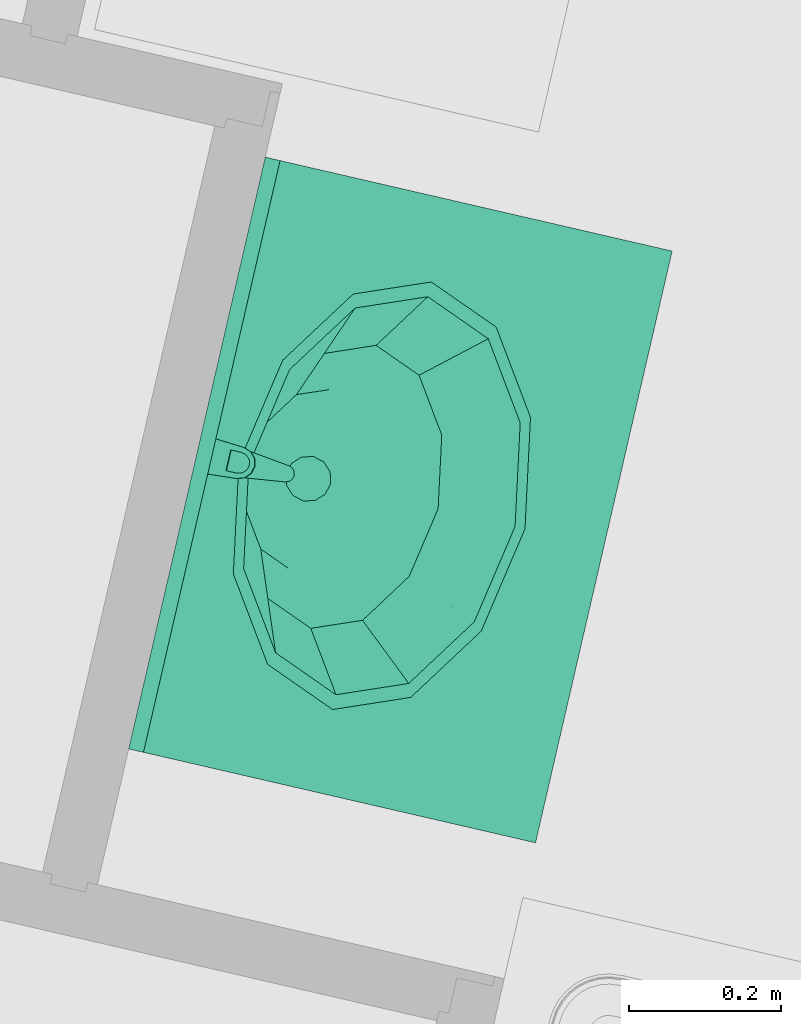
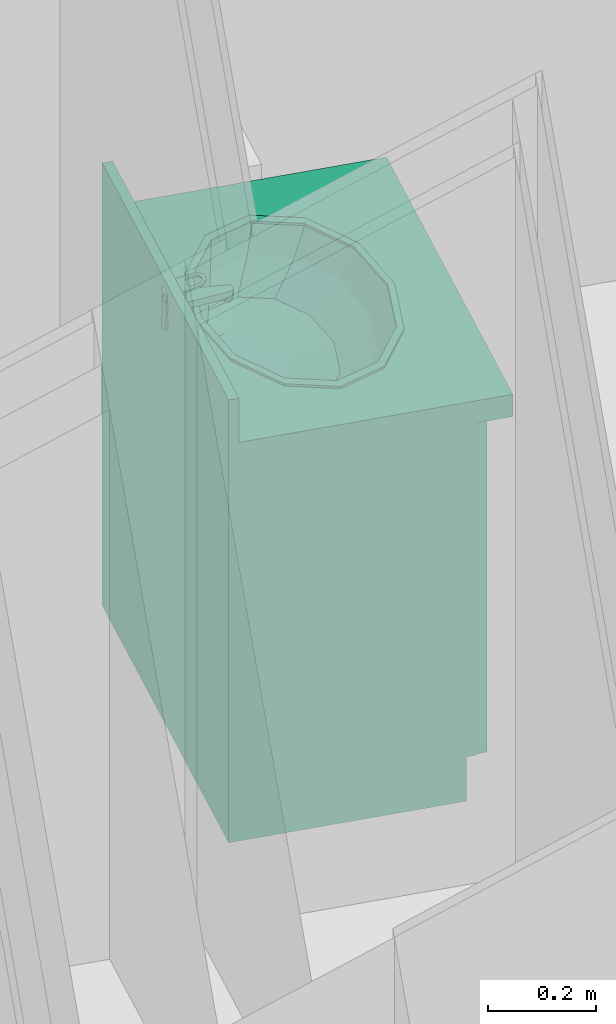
# One storey, part 49 of 62: 1 flow terminal.
"""IFC2X3 building model written with IfcOpenShell, lengths in metres."""

import ifcopenshell
import ifcopenshell.guid

model = None  # the IFC model being written
_history = None  # IfcOwnerHistory: only IFC2X3 demands one
_inside = {}  # id of a spatial element -> (the spatial element, [elements in it])
_under = {}  # id of a project, library or spatial element -> (it, [spatial elements below it])
_declared = {}  # id of a project -> (the project, [libraries it declares])
_typed = {}  # id of a type object -> (the type object, [elements of that type])
_made_of = {}  # id of a material, layer set ... -> (it, [elements and type objects made of it])


def new_model(schema):
    """Start an empty IFC model of exactly this schema.

    Asked for "IFC4X3", IfcOpenShell would pick the latest addendum, in which some entities
    have other attributes; the version numbers below select the first issue.
    IFC2X3 requires an IfcOwnerHistory on every rooted entity: one is made here for all.
    """
    global model, _history
    if schema == "IFC4X3":
        model = ifcopenshell.file(schema_version=(4, 3, 0, 0))
    else:
        model = ifcopenshell.file(schema=schema)
    _inside.clear()
    _under.clear()
    _declared.clear()
    _typed.clear()
    _made_of.clear()
    _history = None
    if model.schema == "IFC2X3":
        org = make("IfcOrganization", Name="unknown")
        user = make(
            "IfcPersonAndOrganization",
            ThePerson=make("IfcPerson", FamilyName="unknown"),
            TheOrganization=org,
        )
        app = make(
            "IfcApplication",
            ApplicationDeveloper=org,
            Version="unknown",
            ApplicationFullName="unknown",
            ApplicationIdentifier="unknown",
        )
        _history = make(
            "IfcOwnerHistory",
            OwningUser=user,
            OwningApplication=app,
            ChangeAction="ADDED",
            CreationDate=0,
        )
    return model


def make(cls, **values):
    """One entity of the class cls with the attributes given. An attribute that is None is left unset."""
    return model.create_entity(
        cls, **{name: value for name, value in values.items() if value is not None}
    )


def entity(cls, *values):
    """Any entity or typed value of the class cls, its attributes in the order of the schema. None: left unset."""
    e = model.create_entity(cls)
    for i, value in enumerate(values):
        if value is not None:
            e[i] = value
    return e


def rooted(cls, **values):
    """An entity with a GlobalId (a new one), such as an element, a storey or a relation."""
    return make(cls, GlobalId=ifcopenshell.guid.new(), OwnerHistory=_history, **values)


def si_unit(unit_type, name, prefix=None):
    """IfcSIUnit, for example si_unit("LENGTHUNIT", "METRE", prefix="MILLI")."""
    return make("IfcSIUnit", UnitType=unit_type, Prefix=prefix, Name=name)


def converted_unit(unit_type, name, factor, base, dimensions=None, offset=None):
    """IfcConversionBasedUnit, such as the inch: factor (a typed value) times the base unit."""
    return make(
        "IfcConversionBasedUnit"
        if offset is None
        else "IfcConversionBasedUnitWithOffset",
        ConversionOffset=offset,
        Dimensions=None
        if dimensions is None
        else entity("IfcDimensionalExponents", *dimensions),
        UnitType=unit_type,
        Name=name,
        ConversionFactor=make(
            "IfcMeasureWithUnit", ValueComponent=factor, UnitComponent=base
        ),
    )


def derived_unit(unit_type, elements):
    """IfcDerivedUnit: a product of units, each with its exponent."""
    return make(
        "IfcDerivedUnit",
        Elements=[
            make("IfcDerivedUnitElement", Unit=unit, Exponent=power)
            for unit, power in elements
        ],
        UnitType=unit_type,
    )


def money_unit(currency):
    """IfcMonetaryUnit."""
    return make("IfcMonetaryUnit", Currency=currency)


def assignment(units):
    """IfcUnitAssignment: the units of a project."""
    return None if units is None else make("IfcUnitAssignment", Units=units)


def point(xyz):
    """IfcCartesianPoint."""
    return None if xyz is None else make("IfcCartesianPoint", Coordinates=xyz)


def direction(xyz):
    """IfcDirection."""
    return None if xyz is None else make("IfcDirection", DirectionRatios=xyz)


def frame(location, z_axis=None, x_axis=None):
    """IfcAxis2Placement3D, a coordinate frame: its origin and axes. An axis left out is left unset."""
    return make(
        "IfcAxis2Placement3D",
        Location=point(location),
        Axis=direction(z_axis),
        RefDirection=direction(x_axis),
    )


def origin_with_axes():
    """The frame at (0, 0, 0) with the z axis (0, 0, 1) and the x axis (1, 0, 0) written out."""
    return frame((0.0, 0.0, 0.0), z_axis=(0.0, 0.0, 1.0), x_axis=(1.0, 0.0, 0.0))


def place(relative_to, where):
    """IfcLocalPlacement: puts the frame where relative to a parent placement (None: the world)."""
    return make(
        "IfcLocalPlacement", PlacementRelTo=relative_to, RelativePlacement=where
    )


def context(
    kind, dimensions, precision=None, world=None, true_north=None, identifier=None
):
    """IfcGeometricRepresentationContext, for example the 3D "Model" context."""
    return make(
        "IfcGeometricRepresentationContext",
        ContextIdentifier=identifier,
        ContextType=kind,
        CoordinateSpaceDimension=dimensions,
        Precision=precision,
        WorldCoordinateSystem=world,
        TrueNorth=true_north,
    )


def subcontext(parent, identifier, kind, view, scale=None):
    """IfcGeometricRepresentationSubContext, for example "Body" below "Model"."""
    return make(
        "IfcGeometricRepresentationSubContext",
        ContextIdentifier=identifier,
        ContextType=kind,
        ParentContext=parent,
        TargetScale=scale,
        TargetView=view,
    )


def project(units=None, contexts=None):
    """IfcProject with its units and contexts."""
    return rooted(
        "IfcProject",
        Name="project",
        RepresentationContexts=contexts,
        UnitsInContext=assignment(units),
    )


def spatial(cls, under=None, at=None, **own):
    """A site, building, storey or space (cls), placed at a placement, below another one or the project."""
    s = rooted(cls, ObjectPlacement=at, **own)
    if under is not None:
        _under.setdefault(under.id(), (under, []))[1].append(s)
    return s


def faces_of(points, faces, orient=None, outer=None):
    """IfcFace entities. A face is a list of loops; a loop is a list of indices into points, from 0.

    orient and outer hold one flag for each loop. By default every Orientation is true, the
    first loop of a face is its IfcFaceOuterBound and the others are IfcFaceBound.
    """
    made = []
    for i, loops in enumerate(faces):
        bounds = []
        for j, loop in enumerate(loops):
            is_outer = j == 0 if outer is None else outer[i][j]
            bounds.append(
                make(
                    "IfcFaceOuterBound" if is_outer else "IfcFaceBound",
                    Bound=make("IfcPolyLoop", Polygon=[points[k] for k in loop]),
                    Orientation=True if orient is None else orient[i][j],
                )
            )
        made.append(make("IfcFace", Bounds=bounds))
    return made


def open_shell(faces, orient=None, outer=None):
    """The faces of one IfcOpenShell. surface_model builds it on its shared points."""
    return ("IfcOpenShell", faces, orient, outer)


def faceted_brep(points, faces, orient=None, outer=None, voids=None):
    """IfcFacetedBrep: a solid bounded by flat faces; with voids (closed shells), ...WithVoids."""
    shared = [point(p) for p in points]
    hull = make("IfcClosedShell", CfsFaces=faces_of(shared, faces, orient, outer))
    if voids is None:
        return make("IfcFacetedBrep", Outer=hull)
    return make(
        "IfcFacetedBrepWithVoids",
        Outer=hull,
        Voids=[
            make(cls, CfsFaces=faces_of(shared, fs, o, b)) for cls, fs, o, b in voids
        ],
    )


def surface_model(cls, points, shells):
    """IfcFaceBasedSurfaceModel or IfcShellBasedSurfaceModel (cls): surfaces that need not close."""
    shared = [point(p) for p in points]
    made = [make(c, CfsFaces=faces_of(shared, fs, o, b)) for c, fs, o, b in shells]
    if cls == "IfcFaceBasedSurfaceModel":
        return make(cls, FbsmFaces=made)
    return make(cls, SbsmBoundary=made)


def shape(context_of_items, identifier, shape_type, items):
    """IfcShapeRepresentation: the items that make up one representation, for example the "Body"."""
    return make(
        "IfcShapeRepresentation",
        ContextOfItems=context_of_items,
        RepresentationIdentifier=identifier,
        RepresentationType=shape_type,
        Items=items,
    )


def source(mapping_origin, context_of_items, identifier, shape_type, items):
    """IfcRepresentationMap: a shape defined once, which mapped items show again and again."""
    return make(
        "IfcRepresentationMap",
        MappingOrigin=mapping_origin,
        MappedRepresentation=shape(context_of_items, identifier, shape_type, items),
    )


def transform(
    local_origin,
    x_axis=None,
    y_axis=None,
    z_axis=None,
    scale=None,
    scale2=None,
    scale3=None,
    uniform=True,
):
    """IfcCartesianTransformationOperator3D, or its non-uniform kind. x_axis, y_axis, z_axis: its Axis1, 2, 3."""
    if uniform:
        return make(
            "IfcCartesianTransformationOperator3D",
            Axis1=direction(x_axis),
            Axis2=direction(y_axis),
            LocalOrigin=point(local_origin),
            Scale=scale,
            Axis3=direction(z_axis),
        )
    return make(
        "IfcCartesianTransformationOperator3DnonUniform",
        Axis1=direction(x_axis),
        Axis2=direction(y_axis),
        LocalOrigin=point(local_origin),
        Scale=scale,
        Axis3=direction(z_axis),
        Scale2=scale2,
        Scale3=scale3,
    )


def mapped(mapping_source, mapping_target):
    """IfcMappedItem: shows the shape of a source again, moved by a transform."""
    return make(
        "IfcMappedItem", MappingSource=mapping_source, MappingTarget=mapping_target
    )


def made_of(thing, what):
    """Note that an element or type object is made of a material, layer set ...; save() writes the relation."""
    if what is not None:
        _made_of.setdefault(what.id(), (what, []))[1].append(thing)
    return thing


def type_object(cls, material=None, **own):
    """A type object (cls), such as IfcWallType, which elements share."""
    return made_of(rooted(cls, **own), material)


def element(
    cls,
    number,
    at=None,
    inside=None,
    cuts=None,
    type_object=None,
    material=None,
    context=None,
    identifier="Body",
    shape_type=None,
    held_by="IfcProductDefinitionShape",
    body=None,
    shapes=None,
    **own,
):
    """One element of the class cls, such as IfcWall. Its Tag is "e" and its number.

    at: its placement. inside: the storey or other place that contains it. cuts: it is an
    opening in that element (IfcRelVoidsElement). A single representation is given by context,
    identifier, shape_type and body (its items); several are given by shapes. held_by: the class
    of the entity that holds the representations. save() writes the other relations.
    """
    e = rooted(cls, Tag="e%d" % number, ObjectPlacement=at, **own)
    if body is not None:
        shapes = [shape(context, identifier, shape_type, body)]
    if shapes is not None:
        e.Representation = make(held_by, Representations=shapes)
    if inside is not None:
        _inside.setdefault(inside.id(), (inside, []))[1].append(e)
    if cuts is not None:
        rooted(
            "IfcRelVoidsElement", RelatingBuildingElement=cuts, RelatedOpeningElement=e
        )
    if type_object is not None:
        _typed.setdefault(type_object.id(), (type_object, []))[1].append(e)
    return made_of(e, material)


def aggregate(whole, parts):
    """IfcRelAggregates: a whole, such as a stair, and the parts it consists of."""
    return rooted("IfcRelAggregates", RelatingObject=whole, RelatedObjects=parts)


def save(model, path):
    """Write the relations noted so far, then the file.

    IfcRelAggregates (storeys below a building ...), IfcRelContainedInSpatialStructure (elements
    in a storey), IfcRelDefinesByType, IfcRelAssociatesMaterial and IfcRelDeclares: one each for
    every whole, place, type object, material and project.
    """
    for whole, parts in _under.values():
        aggregate(whole, parts)
    for where, things in _inside.values():
        rooted(
            "IfcRelContainedInSpatialStructure",
            RelatedElements=things,
            RelatingStructure=where,
        )
    for kind, things in _typed.values():
        rooted("IfcRelDefinesByType", RelatedObjects=things, RelatingType=kind)
    for what, things in _made_of.values():
        rooted("IfcRelAssociatesMaterial", RelatedObjects=things, RelatingMaterial=what)
    for by, libraries in _declared.values():
        rooted("IfcRelDeclares", RelatingContext=by, RelatedDefinitions=libraries)
    model.write(path)


model = new_model("IFC2X3")

# Units and contexts
model_context = context("Model", 3, precision=1e-05, world=origin_with_axes(), true_north=direction((0.0, 1.0)))
body_context = subcontext(model_context, "Body", "Model", "MODEL_VIEW")
ifc_project = project(units=[si_unit("LENGTHUNIT", "METRE"), si_unit("AREAUNIT", "SQUARE_METRE"), si_unit("VOLUMEUNIT", "CUBIC_METRE"), converted_unit("PLANEANGLEUNIT", "DEGREE", entity("IfcPlaneAngleMeasure", 0.0174532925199), si_unit("PLANEANGLEUNIT", "RADIAN"), dimensions=[0, 0, 0, 0, 0, 0, 0]), si_unit("SOLIDANGLEUNIT", "STERADIAN"), money_unit("EUR"), converted_unit("TIMEUNIT", "Year", entity("IfcTimeMeasure", 31556926.0), si_unit("TIMEUNIT", "SECOND"), dimensions=[0, 0, 1, 0, 0, 0, 0]), si_unit("MASSUNIT", "GRAM", prefix="KILO"), si_unit("THERMODYNAMICTEMPERATUREUNIT", "DEGREE_CELSIUS"), si_unit("LUMINOUSINTENSITYUNIT", "LUMEN"), si_unit("ENERGYUNIT", "JOULE", prefix="MEGA"), derived_unit("THERMALCONDUCTANCEUNIT", [(si_unit("POWERUNIT", "WATT"), 1), (si_unit("LENGTHUNIT", "METRE"), -1), (si_unit("THERMODYNAMICTEMPERATUREUNIT", "KELVIN"), -1)]), derived_unit("SPECIFICHEATCAPACITYUNIT", [(si_unit("ENERGYUNIT", "JOULE"), 1), (si_unit("MASSUNIT", "GRAM", prefix="KILO"), -1), (si_unit("THERMODYNAMICTEMPERATUREUNIT", "KELVIN"), -1)]), derived_unit("MASSDENSITYUNIT", [(si_unit("MASSUNIT", "GRAM", prefix="KILO"), 1), (si_unit("VOLUMEUNIT", "CUBIC_METRE"), -1)])], contexts=[model_context])

# Site, building, storey
site_placement = place(None, origin_with_axes())
site = spatial("IfcSite", under=ifc_project, at=site_placement, Name="Site", CompositionType="ELEMENT")
building_placement = place(site_placement, origin_with_axes())
building = spatial("IfcBuilding", under=site, at=building_placement, Name="Bâtiment", CompositionType="ELEMENT")
storey_placement = place(building_placement, frame((0.0, 0.0, 8.16), z_axis=(0.0, 0.0, 1.0), x_axis=(1.0, 0.0, 0.0)))
storey = spatial("IfcBuildingStorey", under=building, at=storey_placement, Name="R+3", CompositionType="ELEMENT", Elevation=8.16)

# Flow terminal
sanitary_terminal_type = type_object("IfcSanitaryTerminalType", Name="Lavabo sur meuble 23", PredefinedType="NOTDEFINED")
shared_shape = source(origin_with_axes(), body_context, "Body", "SurfaceModel", [
    faceted_brep([(0.0, 0.09, 0.0), (0.8, 0.09, 0.0), (0.8, 0.09, 0.1), (0.0, 0.09, 0.1), (0.0, 0.55, 0.0), (0.8, 0.55, 0.0), (0.8, 0.55, 0.1), (0.0, 0.55, 0.1)], [[[0, 1, 2, 3]], [[0, 4, 5, 1]], [[1, 5, 6, 2]], [[3, 2, 6, 7]], [[4, 0, 3, 7]], [[5, 4, 7, 6]]]),
    faceted_brep([(0.0, 0.07, 0.1), (0.02, 0.07, 0.1), (0.02, 0.07, 0.12), (0.0, 0.07, 0.12), (0.0, 0.55, 0.1), (0.02, 0.55, 0.1), (0.78, 0.55, 0.1), (0.8, 0.55, 0.1), (0.8, 0.07, 0.1), (0.78, 0.07, 0.1), (0.78, 0.07, 0.12), (0.8, 0.07, 0.12), (0.8, 0.55, 0.12), (0.78, 0.55, 0.12), (0.02, 0.55, 0.12), (0.0, 0.55, 0.12)], [[[0, 1, 2, 3]], [[0, 4, 5, 6, 7, 8, 9, 1]], [[1, 9, 10, 2]], [[3, 2, 10, 11, 12, 13, 14, 15]], [[4, 0, 3, 15]], [[5, 4, 15, 14]], [[6, 5, 14, 13]], [[7, 6, 13, 12]], [[8, 7, 12, 11]], [[9, 8, 11, 10]]]),
    faceted_brep([(0.0, 0.07, 0.12), (0.02, 0.07, 0.12), (0.02, 0.07, 0.85), (0.0, 0.07, 0.85), (0.0, 0.55, 0.12), (0.8, 0.55, 0.12), (0.8, 0.07, 0.12), (0.78, 0.07, 0.12), (0.78, 0.53, 0.12), (0.02, 0.53, 0.12), (0.02, 0.53, 0.85), (0.78, 0.53, 0.85), (0.78, 0.07, 0.85), (0.8, 0.07, 0.85), (0.8, 0.55, 0.85), (0.0, 0.55, 0.85)], [[[0, 1, 2, 3]], [[0, 4, 5, 6, 7, 8, 9, 1]], [[1, 9, 10, 2]], [[3, 2, 10, 11, 12, 13, 14, 15]], [[4, 0, 3, 15]], [[5, 4, 15, 14]], [[6, 5, 14, 13]], [[7, 6, 13, 12]], [[8, 7, 12, 11]], [[9, 8, 11, 10]]]),
    faceted_brep([(0.78, 0.07, 0.323333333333), (0.78, 0.53, 0.323333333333), (0.78, 0.53, 0.343333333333), (0.78, 0.07, 0.343333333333), (0.02, 0.07, 0.323333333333), (0.02, 0.53, 0.323333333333), (0.02, 0.53, 0.343333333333), (0.02, 0.07, 0.343333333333)], [[[0, 1, 2, 3]], [[0, 4, 5, 1]], [[1, 5, 6, 2]], [[3, 2, 6, 7]], [[4, 0, 3, 7]], [[5, 4, 7, 6]]]),
    faceted_brep([(0.78, 0.07, 0.566666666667), (0.78, 0.53, 0.566666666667), (0.78, 0.53, 0.586666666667), (0.78, 0.07, 0.586666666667), (0.02, 0.07, 0.566666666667), (0.02, 0.53, 0.566666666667), (0.02, 0.53, 0.586666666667), (0.02, 0.07, 0.586666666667)], [[[0, 1, 2, 3]], [[0, 4, 5, 1]], [[1, 5, 6, 2]], [[3, 2, 6, 7]], [[4, 0, 3, 7]], [[5, 4, 7, 6]]]),
    faceted_brep([(0.0, 0.55, 0.85), (0.8, 0.55, 0.85), (0.8, 0.0, 0.85), (0.0, 0.0, 0.85), (0.535, 0.144115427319, 0.85), (0.633826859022, 0.21, 0.85), (0.67, 0.3, 0.85), (0.633826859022, 0.39, 0.85), (0.535, 0.455884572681, 0.85), (0.4, 0.48, 0.85), (0.265, 0.455884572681, 0.85), (0.166173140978, 0.39, 0.85), (0.13, 0.3, 0.85), (0.166173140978, 0.21, 0.85), (0.265, 0.144115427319, 0.85), (0.4, 0.12, 0.85), (0.0, 0.55, 0.9), (0.8, 0.55, 0.9), (0.8, 0.0, 0.9), (0.0, 0.0, 0.9), (0.535, 0.144115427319, 0.9), (0.633826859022, 0.21, 0.9), (0.67, 0.3, 0.9), (0.633826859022, 0.39, 0.9), (0.535, 0.455884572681, 0.9), (0.4, 0.48, 0.9), (0.265, 0.455884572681, 0.9), (0.166173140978, 0.39, 0.9), (0.13, 0.3, 0.9), (0.166173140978, 0.21, 0.9), (0.265, 0.144115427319, 0.9), (0.4, 0.12, 0.9)], [[[0, 1, 2, 3], [4, 5, 6, 7, 8, 9, 10, 11, 12, 13, 14, 15]], [[0, 16, 17, 1]], [[1, 17, 18, 2]], [[2, 18, 19, 3]], [[3, 19, 16, 0]], [[20, 21, 5, 4]], [[21, 22, 6, 5]], [[22, 23, 7, 6]], [[23, 24, 8, 7]], [[24, 25, 9, 8]], [[25, 26, 10, 9]], [[26, 27, 11, 10]], [[27, 28, 12, 11]], [[28, 29, 13, 12]], [[29, 30, 14, 13]], [[30, 31, 15, 14]], [[31, 20, 4, 15]], [[18, 17, 16, 19], [24, 23, 22, 21, 20, 31, 30, 29, 28, 27, 26, 25]]]),
    faceted_brep([(0.0, 0.53, 0.9), (0.8, 0.53, 0.9), (0.8, 0.53, 1.0), (0.0, 0.53, 1.0), (0.0, 0.55, 0.9), (0.8, 0.55, 0.9), (0.8, 0.55, 1.0), (0.0, 0.55, 1.0)], [[[0, 1, 2, 3]], [[0, 4, 5, 1]], [[1, 5, 6, 2]], [[3, 2, 6, 7]], [[4, 0, 3, 7]], [[5, 4, 7, 6]]]),
    faceted_brep([(0.689, 0.3, 0.905), (0.689, 0.3, 0.9), (0.650281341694, 0.396691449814, 0.9), (0.650281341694, 0.396691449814, 0.905), (0.650281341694, 0.203308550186, 0.905), (0.650281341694, 0.203308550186, 0.9), (0.5445, 0.132525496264, 0.9), (0.4, 0.106617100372, 0.9), (0.2555, 0.132525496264, 0.9), (0.149718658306, 0.203308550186, 0.9), (0.111, 0.3, 0.9), (0.149718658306, 0.396691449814, 0.9), (0.2555, 0.467474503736, 0.9), (0.4, 0.493382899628, 0.9), (0.5445, 0.467474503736, 0.9), (0.669, 0.3, 0.9), (0.632960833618, 0.39, 0.9), (0.5345, 0.455884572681, 0.9), (0.4, 0.48, 0.9), (0.2655, 0.455884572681, 0.9), (0.167039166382, 0.39, 0.9), (0.131, 0.3, 0.9), (0.167039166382, 0.21, 0.9), (0.2655, 0.144115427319, 0.9), (0.4, 0.12, 0.9), (0.5345, 0.144115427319, 0.9), (0.632960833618, 0.21, 0.9), (0.5445, 0.467474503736, 0.905), (0.4, 0.493382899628, 0.905), (0.2555, 0.467474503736, 0.905), (0.149718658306, 0.396691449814, 0.905), (0.111, 0.3, 0.905), (0.149718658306, 0.203308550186, 0.905), (0.2555, 0.132525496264, 0.905), (0.4, 0.106617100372, 0.905), (0.5445, 0.132525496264, 0.905), (0.669, 0.3, 0.905), (0.632960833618, 0.21, 0.905), (0.5345, 0.144115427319, 0.905), (0.4, 0.12, 0.905), (0.2655, 0.144115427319, 0.905), (0.167039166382, 0.21, 0.905), (0.131, 0.3, 0.905), (0.167039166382, 0.39, 0.905), (0.2655, 0.455884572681, 0.905), (0.4, 0.48, 0.905), (0.5345, 0.455884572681, 0.905), (0.632960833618, 0.39, 0.905)], [[[0, 1, 2, 3]], [[4, 5, 1, 0]], [[1, 5, 6, 7, 8, 9, 10, 11, 12, 13, 14, 2], [15, 16, 17, 18, 19, 20, 21, 22, 23, 24, 25, 26]], [[3, 2, 14, 27]], [[0, 3, 27, 28, 29, 30, 31, 32, 33, 34, 35, 4], [36, 37, 38, 39, 40, 41, 42, 43, 44, 45, 46, 47]], [[35, 6, 5, 4]], [[34, 7, 6, 35]], [[33, 8, 7, 34]], [[32, 9, 8, 33]], [[31, 10, 9, 32]], [[30, 11, 10, 31]], [[29, 12, 11, 30]], [[28, 13, 12, 29]], [[27, 14, 13, 28]], [[47, 16, 15, 36]], [[46, 17, 16, 47]], [[45, 18, 17, 46]], [[44, 19, 18, 45]], [[43, 20, 19, 44]], [[42, 21, 20, 43]], [[41, 22, 21, 42]], [[40, 23, 22, 41]], [[39, 24, 23, 40]], [[38, 25, 24, 39]], [[37, 26, 25, 38]], [[36, 15, 26, 37]]]),
    surface_model("IfcShellBasedSurfaceModel", [(0.4, 0.48, 0.9), (0.4, 0.48, 0.848), (0.52105, 0.458296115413, 0.848), (0.5345, 0.455884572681, 0.9), (0.2655, 0.455884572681, 0.9), (0.27895, 0.458296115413, 0.848), (0.609664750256, 0.399, 0.848), (0.632960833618, 0.39, 0.9), (0.167039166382, 0.39, 0.9), (0.190335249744, 0.399, 0.848), (0.6421, 0.318, 0.848), (0.669, 0.3, 0.9), (0.131, 0.3, 0.9), (0.1579, 0.318, 0.848), (0.609664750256, 0.237, 0.848), (0.632960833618, 0.21, 0.9), (0.167039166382, 0.21, 0.9), (0.190335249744, 0.237, 0.848), (0.52105, 0.177703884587, 0.848), (0.5345, 0.144115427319, 0.9), (0.2655, 0.144115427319, 0.9), (0.27895, 0.177703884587, 0.848), (0.4, 0.156, 0.848), (0.4, 0.12, 0.9)], [open_shell([[[0, 1, 2, 3]], [[4, 5, 1, 0]], [[3, 2, 6, 7]], [[8, 9, 5, 4]], [[7, 6, 10, 11]], [[12, 13, 9, 8]], [[11, 10, 14, 15]], [[16, 17, 13, 12]], [[15, 14, 18, 19]], [[20, 21, 17, 16]], [[19, 18, 22, 23]], [[23, 22, 21, 20]]])]),
    surface_model("IfcShellBasedSurfaceModel", [(0.4, 0.48, 0.848), (0.4, 0.48, 0.796), (0.4956295, 0.462853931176, 0.796), (0.52105, 0.458296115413, 0.848), (0.27895, 0.458296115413, 0.848), (0.3043705, 0.462853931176, 0.796), (0.565635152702, 0.41601, 0.796), (0.609664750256, 0.399, 0.848), (0.190335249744, 0.399, 0.848), (0.234364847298, 0.41601, 0.796), (0.591259, 0.35202, 0.796), (0.6421, 0.318, 0.848), (0.1579, 0.318, 0.848), (0.208741, 0.35202, 0.796), (0.565635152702, 0.28803, 0.796), (0.609664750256, 0.237, 0.848), (0.190335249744, 0.237, 0.848), (0.234364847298, 0.28803, 0.796), (0.4956295, 0.241186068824, 0.796), (0.52105, 0.177703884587, 0.848), (0.27895, 0.177703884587, 0.848), (0.3043705, 0.241186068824, 0.796), (0.4, 0.22404, 0.796), (0.4, 0.156, 0.848)], [open_shell([[[0, 1, 2, 3]], [[4, 5, 1, 0]], [[3, 2, 6, 7]], [[8, 9, 5, 4]], [[7, 6, 10, 11]], [[12, 13, 9, 8]], [[11, 10, 14, 15]], [[16, 17, 13, 12]], [[15, 14, 18, 19]], [[20, 21, 17, 16]], [[19, 18, 22, 23]], [[23, 22, 21, 20]]])]),
    surface_model("IfcShellBasedSurfaceModel", [(0.4, 0.48, 0.796), (0.4, 0.48, 0.77), (0.460246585, 0.469197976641, 0.77), (0.4956295, 0.462853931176, 0.796), (0.3043705, 0.462853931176, 0.796), (0.339753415, 0.469197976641, 0.77), (0.504350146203, 0.4396863, 0.77), (0.565635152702, 0.41601, 0.796), (0.234364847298, 0.41601, 0.796), (0.295649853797, 0.4396863, 0.77), (0.52049317, 0.3993726, 0.77), (0.591259, 0.35202, 0.796), (0.208741, 0.35202, 0.796), (0.27950683, 0.3993726, 0.77), (0.504350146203, 0.3590589, 0.77), (0.565635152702, 0.28803, 0.796), (0.234364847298, 0.28803, 0.796), (0.295649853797, 0.3590589, 0.77), (0.460246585, 0.329547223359, 0.77), (0.4956295, 0.241186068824, 0.796), (0.3043705, 0.241186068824, 0.796), (0.339753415, 0.329547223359, 0.77), (0.4, 0.3187452, 0.77), (0.4, 0.22404, 0.796)], [open_shell([[[0, 1, 2, 3]], [[4, 5, 1, 0]], [[3, 2, 6, 7]], [[8, 9, 5, 4]], [[7, 6, 10, 11]], [[12, 13, 9, 8]], [[11, 10, 14, 15]], [[16, 17, 13, 12]], [[15, 14, 18, 19]], [[20, 21, 17, 16]], [[19, 18, 22, 23]], [[23, 22, 21, 20]]])]),
    surface_model("IfcShellBasedSurfaceModel", [(0.4, 0.48, 0.77), (0.415, 0.425353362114, 0.763), (0.460246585, 0.469197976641, 0.77), (0.4, 0.4293726, 0.763), (0.425980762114, 0.4143726, 0.763), (0.339753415, 0.469197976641, 0.77), (0.504350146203, 0.4396863, 0.77), (0.385, 0.425353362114, 0.763), (0.43, 0.3993726, 0.763), (0.295649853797, 0.4396863, 0.77), (0.52049317, 0.3993726, 0.77), (0.374019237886, 0.4143726, 0.763), (0.425980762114, 0.3843726, 0.763), (0.27950683, 0.3993726, 0.77), (0.504350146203, 0.3590589, 0.77), (0.37, 0.3993726, 0.763), (0.415, 0.373391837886, 0.763), (0.295649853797, 0.3590589, 0.77), (0.460246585, 0.329547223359, 0.77), (0.374019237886, 0.3843726, 0.763), (0.4, 0.3693726, 0.763), (0.339753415, 0.329547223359, 0.77), (0.4, 0.3187452, 0.77), (0.385, 0.373391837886, 0.763)], [open_shell([[[0, 1, 2]], [[0, 3, 1]], [[2, 1, 4]], [[5, 3, 0]], [[2, 4, 6]], [[5, 7, 3]], [[6, 4, 8]], [[9, 7, 5]], [[6, 8, 10]], [[9, 11, 7]], [[10, 8, 12]], [[13, 11, 9]], [[10, 12, 14]], [[13, 15, 11]], [[14, 12, 16]], [[17, 15, 13]], [[14, 16, 18]], [[17, 19, 15]], [[18, 16, 20]], [[21, 19, 17]], [[18, 20, 22]], [[21, 23, 19]], [[22, 20, 23]], [[22, 23, 21]]])]),
    surface_model("IfcShellBasedSurfaceModel", [(0.43, 0.3993726, 0.763), (0.43, 0.3993726, 0.758), (0.425980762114, 0.4143726, 0.758), (0.425980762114, 0.4143726, 0.763), (0.425980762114, 0.3843726, 0.763), (0.425980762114, 0.3843726, 0.758), (0.415, 0.373391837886, 0.758), (0.4, 0.3693726, 0.758), (0.385, 0.373391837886, 0.758), (0.374019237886, 0.3843726, 0.758), (0.37, 0.3993726, 0.758), (0.374019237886, 0.4143726, 0.758), (0.385, 0.425353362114, 0.758), (0.4, 0.4293726, 0.758), (0.415, 0.425353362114, 0.758), (0.415, 0.425353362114, 0.763), (0.415, 0.373391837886, 0.763), (0.4, 0.3693726, 0.763), (0.385, 0.373391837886, 0.763), (0.374019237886, 0.3843726, 0.763), (0.37, 0.3993726, 0.763), (0.374019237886, 0.4143726, 0.763), (0.385, 0.425353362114, 0.763), (0.4, 0.4293726, 0.763)], [open_shell([[[0, 1, 2, 3]], [[4, 5, 1, 0]], [[1, 5, 6, 7, 8, 9, 10, 11, 12, 13, 14, 2]], [[3, 2, 14, 15]], [[16, 6, 5, 4]], [[17, 7, 6, 16]], [[18, 8, 7, 17]], [[19, 9, 8, 18]], [[20, 10, 9, 19]], [[21, 11, 10, 20]], [[22, 12, 11, 21]], [[23, 13, 12, 22]], [[15, 14, 13, 23]]])]),
    faceted_brep([(0.4125, 0.554150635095, 0.9), (0.4, 0.5575, 0.9), (0.4, 0.553701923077, 0.975961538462), (0.410587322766, 0.550837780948, 0.976507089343), (0.421650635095, 0.545, 0.9), (0.425, 0.5325, 0.9), (0.421650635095, 0.52, 0.9), (0.4125, 0.510849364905, 0.9), (0.4, 0.5075, 0.9), (0.3875, 0.510849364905, 0.9), (0.378349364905, 0.52, 0.9), (0.375, 0.5325, 0.9), (0.378349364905, 0.545, 0.9), (0.3875, 0.554150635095, 0.9), (0.389412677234, 0.550837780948, 0.976507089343), (0.381726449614, 0.543050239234, 0.977990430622), (0.379, 0.5325, 0.98), (0.381899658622, 0.522049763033, 0.981990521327), (0.389585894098, 0.514462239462, 0.983435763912), (0.4, 0.511698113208, 0.983962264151), (0.410414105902, 0.514462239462, 0.983435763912), (0.418100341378, 0.522049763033, 0.981990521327), (0.421, 0.5325, 0.98), (0.418273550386, 0.543050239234, 0.977990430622)], [[[0, 1, 2, 3]], [[0, 4, 5, 6, 7, 8, 9, 10, 11, 12, 13, 1]], [[1, 13, 14, 2]], [[3, 2, 14, 15, 16, 17, 18, 19, 20, 21, 22, 23]], [[4, 0, 3, 23]], [[5, 4, 23, 22]], [[6, 5, 22, 21]], [[7, 6, 21, 20]], [[8, 7, 20, 19]], [[9, 8, 19, 18]], [[10, 9, 18, 17]], [[11, 10, 17, 16]], [[12, 11, 16, 15]], [[13, 12, 15, 14]]]),
    faceted_brep([(0.409, 0.4295, 0.935), (0.407794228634, 0.434, 0.935), (0.407794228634, 0.434, 0.945), (0.409, 0.4295, 0.945), (0.407794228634, 0.425, 0.935), (0.4045, 0.421705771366, 0.935), (0.4, 0.4205, 0.935), (0.3955, 0.421705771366, 0.935), (0.392205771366, 0.425, 0.935), (0.391, 0.4295, 0.935), (0.392205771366, 0.434, 0.935), (0.3955, 0.437294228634, 0.935), (0.4, 0.4385, 0.935), (0.4045, 0.437294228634, 0.935), (0.4045, 0.437294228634, 0.945), (0.4, 0.4385, 0.945), (0.3955, 0.437294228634, 0.945), (0.392205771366, 0.434, 0.945), (0.391, 0.4295, 0.945), (0.392205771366, 0.425, 0.945), (0.3955, 0.421705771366, 0.945), (0.4, 0.4205, 0.945), (0.4045, 0.421705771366, 0.945), (0.407794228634, 0.425, 0.945)], [[[0, 1, 2, 3]], [[0, 4, 5, 6, 7, 8, 9, 10, 11, 12, 13, 1]], [[1, 13, 14, 2]], [[3, 2, 14, 15, 16, 17, 18, 19, 20, 21, 22, 23]], [[4, 0, 3, 23]], [[5, 4, 23, 22]], [[6, 5, 22, 21]], [[7, 6, 21, 20]], [[8, 7, 20, 19]], [[9, 8, 19, 18]], [[10, 9, 18, 17]], [[11, 10, 17, 16]], [[12, 11, 16, 15]], [[13, 12, 15, 14]]]),
    faceted_brep([(0.387128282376, 0.552756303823, 0.96), (0.378272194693, 0.54269320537, 0.96), (0.3761946, 0.5294501, 0.96), (0.389088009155, 0.428111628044, 0.96), (0.390971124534, 0.423216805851, 0.96), (0.394906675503, 0.419750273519, 0.96), (0.400000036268, 0.41850003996, 0.96), (0.405093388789, 0.419750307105, 0.96), (0.409028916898, 0.423216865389, 0.96), (0.410912, 0.4281117, 0.96), (0.423805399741, 0.529450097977, 0.96), (0.421727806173, 0.542693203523, 0.96), (0.412871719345, 0.552756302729, 0.96), (0.40000000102, 0.556499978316, 0.96), (0.411, 0.551552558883, 0.96), (0.419052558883, 0.5435, 0.96), (0.422, 0.5325, 0.96), (0.419052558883, 0.5215, 0.96), (0.411, 0.513447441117, 0.96), (0.4, 0.5105, 0.96), (0.389, 0.513447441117, 0.96), (0.380947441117, 0.5215, 0.96), (0.378, 0.5325, 0.96), (0.380947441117, 0.5435, 0.96), (0.389, 0.551552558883, 0.96), (0.4, 0.5545, 0.96), (0.378272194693, 0.54269320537, 0.945), (0.387128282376, 0.552756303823, 0.945), (0.3761946, 0.5294501, 0.945), (0.389088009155, 0.428111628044, 0.945), (0.390971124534, 0.423216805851, 0.945), (0.394906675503, 0.419750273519, 0.945), (0.400000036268, 0.41850003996, 0.945), (0.405093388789, 0.419750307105, 0.945), (0.409028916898, 0.423216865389, 0.945), (0.410912, 0.4281117, 0.945), (0.423805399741, 0.529450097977, 0.945), (0.421727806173, 0.542693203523, 0.945), (0.412871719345, 0.552756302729, 0.945), (0.40000000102, 0.556499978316, 0.945), (0.411375, 0.552202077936, 0.945), (0.419702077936, 0.543875, 0.945), (0.42275, 0.5325, 0.945), (0.419702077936, 0.521125, 0.945), (0.411375, 0.512797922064, 0.945), (0.4, 0.50975, 0.945), (0.388625, 0.512797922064, 0.945), (0.380297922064, 0.521125, 0.945), (0.37725, 0.5325, 0.945), (0.380297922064, 0.543875, 0.945), (0.388625, 0.552202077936, 0.945), (0.4, 0.55525, 0.945)], [[[0, 1, 2, 3, 4, 5, 6, 7, 8, 9, 10, 11, 12, 13], [14, 15, 16, 17, 18, 19, 20, 21, 22, 23, 24, 25]], [[26, 1, 0, 27]], [[28, 2, 1, 26]], [[29, 3, 2, 28]], [[30, 4, 3, 29]], [[31, 5, 4, 30]], [[32, 6, 5, 31]], [[33, 7, 6, 32]], [[34, 8, 7, 33]], [[35, 9, 8, 34]], [[36, 10, 9, 35]], [[37, 11, 10, 36]], [[38, 12, 11, 37]], [[39, 13, 12, 38]], [[27, 0, 13, 39]], [[40, 41, 15, 14]], [[41, 42, 16, 15]], [[42, 43, 17, 16]], [[43, 44, 18, 17]], [[44, 45, 19, 18]], [[20, 19, 45, 46]], [[21, 20, 46, 47]], [[22, 21, 47, 48]], [[23, 22, 48, 49]], [[24, 23, 49, 50]], [[50, 51, 25, 24]], [[51, 40, 14, 25]], [[32, 31, 30, 29, 28, 26, 27, 39, 38, 37, 36, 35, 34, 33], [44, 43, 42, 41, 40, 51, 50, 49, 48, 47, 46, 45]]]),
    faceted_brep([(0.423893, 0.53080743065, 0.980322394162), (0.421296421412, 0.543274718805, 0.977947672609), (0.421296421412, 0.544023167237, 0.981877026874), (0.423893, 0.531555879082, 0.984251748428), (0.420945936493, 0.490663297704, 0.987968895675), (0.417663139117, 0.480985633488, 0.989812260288), (0.410061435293, 0.474036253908, 0.991135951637), (0.399999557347, 0.47151438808, 0.991616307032), (0.389937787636, 0.474036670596, 0.991135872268), (0.382336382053, 0.480986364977, 0.989812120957), (0.379054, 0.490664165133, 0.987968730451), (0.376106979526, 0.530807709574, 0.980322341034), (0.378703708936, 0.543274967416, 0.977947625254), (0.38752831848, 0.552591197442, 0.976173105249), (0.400000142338, 0.556031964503, 0.975517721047), (0.41247192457, 0.552591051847, 0.976173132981), (0.414, 0.506959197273, 0.984864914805), (0.386, 0.506959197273, 0.984864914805), (0.386, 0.492143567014, 0.987686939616), (0.387875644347, 0.485267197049, 0.988996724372), (0.393, 0.480233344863, 0.989955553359), (0.4, 0.478390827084, 0.990306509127), (0.407, 0.480233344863, 0.989955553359), (0.412124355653, 0.485267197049, 0.988996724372), (0.414, 0.492143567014, 0.987686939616), (0.41247192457, 0.553339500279, 0.980102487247), (0.400000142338, 0.556780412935, 0.979447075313), (0.38752831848, 0.553339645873, 0.980102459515), (0.378703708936, 0.544023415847, 0.98187697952), (0.376106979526, 0.531556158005, 0.984251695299), (0.379054, 0.491412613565, 0.991898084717), (0.382336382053, 0.481734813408, 0.993741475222), (0.389937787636, 0.474785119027, 0.995065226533), (0.399999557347, 0.472262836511, 0.995545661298), (0.410061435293, 0.47478470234, 0.995065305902), (0.417663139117, 0.48173408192, 0.993741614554), (0.420945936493, 0.491411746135, 0.991898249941), (0.414, 0.507707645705, 0.988794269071), (0.414, 0.492892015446, 0.991616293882), (0.412124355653, 0.486015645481, 0.992926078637), (0.407, 0.480981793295, 0.993884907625), (0.4, 0.479139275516, 0.994235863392), (0.393, 0.480981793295, 0.993884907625), (0.387875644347, 0.486015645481, 0.992926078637), (0.386, 0.492892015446, 0.991616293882), (0.386, 0.507707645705, 0.988794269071)], [[[0, 1, 2, 3]], [[0, 4, 5, 6, 7, 8, 9, 10, 11, 12, 13, 14, 15, 1], [16, 17, 18, 19, 20, 21, 22, 23, 24]], [[1, 15, 25, 2]], [[3, 2, 25, 26, 27, 28, 29, 30, 31, 32, 33, 34, 35, 36], [37, 38, 39, 40, 41, 42, 43, 44, 45]], [[4, 0, 3, 36]], [[5, 4, 36, 35]], [[6, 5, 35, 34]], [[7, 6, 34, 33]], [[8, 7, 33, 32]], [[9, 8, 32, 31]], [[10, 9, 31, 30]], [[11, 10, 30, 29]], [[12, 11, 29, 28]], [[13, 12, 28, 27]], [[14, 13, 27, 26]], [[15, 14, 26, 25]], [[17, 16, 37, 45]], [[18, 17, 45, 44]], [[19, 18, 44, 43]], [[20, 19, 43, 42]], [[21, 20, 42, 41]], [[22, 21, 41, 40]], [[23, 22, 40, 39]], [[24, 23, 39, 38]], [[16, 24, 38, 37]]]),
    faceted_brep([(0.0015, 0.07, 0.1015), (0.3985, 0.07, 0.1015), (0.3985, 0.05, 0.1015), (0.0015, 0.05, 0.1015), (0.0015, 0.07, 0.8485), (0.3985, 0.07, 0.8485), (0.3985, 0.05, 0.8485), (0.0015, 0.05, 0.8485)], [[[0, 1, 2, 3]], [[0, 4, 5, 1]], [[1, 5, 6, 2]], [[3, 2, 6, 7]], [[4, 0, 3, 7]], [[5, 4, 7, 6]]]),
    faceted_brep([(0.358892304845, 0.05, 0.7855), (0.3545, 0.05, 0.781107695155), (0.3485, 0.05, 0.7795), (0.3425, 0.05, 0.781107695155), (0.338107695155, 0.05, 0.7855), (0.3365, 0.05, 0.7915), (0.338107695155, 0.05, 0.7975), (0.3425, 0.05, 0.801892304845), (0.3485, 0.05, 0.8035), (0.3545, 0.05, 0.801892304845), (0.358892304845, 0.05, 0.7975), (0.3605, 0.05, 0.7915), (0.358892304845, 0.025, 0.7855), (0.3545, 0.025, 0.781107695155), (0.3485, 0.025, 0.7795), (0.3425, 0.025, 0.781107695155), (0.338107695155, 0.025, 0.7855), (0.3365, 0.025, 0.7915), (0.338107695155, 0.025, 0.7975), (0.3425, 0.025, 0.801892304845), (0.3485, 0.025, 0.8035), (0.3545, 0.025, 0.801892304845), (0.358892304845, 0.025, 0.7975), (0.3605, 0.025, 0.7915)], [[[0, 1, 2, 3, 4, 5, 6, 7, 8, 9, 10, 11]], [[1, 0, 12, 13]], [[2, 1, 13, 14]], [[3, 2, 14, 15]], [[4, 3, 15, 16]], [[5, 4, 16, 17]], [[6, 5, 17, 18]], [[7, 6, 18, 19]], [[8, 7, 19, 20]], [[9, 8, 20, 21]], [[10, 9, 21, 22]], [[11, 10, 22, 23]], [[0, 11, 23, 12]], [[12, 23, 22, 21, 20, 19, 18, 17, 16, 15, 14, 13]]]),
    faceted_brep([(0.7985, 0.07, 0.1015), (0.7985, 0.05, 0.1015), (0.4015, 0.05, 0.1015), (0.4015, 0.07, 0.1015), (0.7985, 0.07, 0.8485), (0.7985, 0.05, 0.8485), (0.4015, 0.05, 0.8485), (0.4015, 0.07, 0.8485)], [[[0, 1, 2, 3]], [[4, 5, 1, 0]], [[1, 5, 6, 2]], [[3, 2, 6, 7]], [[0, 3, 7, 4]], [[7, 6, 5, 4]]]),
    faceted_brep([(0.441107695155, 0.05, 0.7855), (0.4395, 0.05, 0.7915), (0.441107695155, 0.05, 0.7975), (0.4455, 0.05, 0.801892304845), (0.4515, 0.05, 0.8035), (0.4575, 0.05, 0.801892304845), (0.461892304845, 0.05, 0.7975), (0.4635, 0.05, 0.7915), (0.461892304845, 0.05, 0.7855), (0.4575, 0.05, 0.781107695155), (0.4515, 0.05, 0.7795), (0.4455, 0.05, 0.781107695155), (0.441107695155, 0.025, 0.7855), (0.4395, 0.025, 0.7915), (0.441107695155, 0.025, 0.7975), (0.4455, 0.025, 0.801892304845), (0.4515, 0.025, 0.8035), (0.4575, 0.025, 0.801892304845), (0.461892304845, 0.025, 0.7975), (0.4635, 0.025, 0.7915), (0.461892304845, 0.025, 0.7855), (0.4575, 0.025, 0.781107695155), (0.4515, 0.025, 0.7795), (0.4455, 0.025, 0.781107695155)], [[[0, 1, 2, 3, 4, 5, 6, 7, 8, 9, 10, 11]], [[0, 12, 13, 1]], [[1, 13, 14, 2]], [[2, 14, 15, 3]], [[3, 15, 16, 4]], [[4, 16, 17, 5]], [[5, 17, 18, 6]], [[6, 18, 19, 7]], [[7, 19, 20, 8]], [[8, 20, 21, 9]], [[9, 21, 22, 10]], [[10, 22, 23, 11]], [[11, 23, 12, 0]], [[12, 23, 22, 21, 20, 19, 18, 17, 16, 15, 14, 13]]]),
])
flow_terminal_placement = place(storey_placement, frame((-6.91332050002, 4.89282454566, 0.0), z_axis=(0.0, 0.0, 1.0), x_axis=(0.224876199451, 0.97438734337, 0.0)))
element("IfcFlowTerminal", 1, at=flow_terminal_placement, inside=storey, type_object=sanitary_terminal_type, Name="MOB-002", ObjectType="SANITARY_TERMINAL", context=body_context, shape_type="MappedRepresentation", body=[
    mapped(shared_shape, transform((0.0, 0.0, 0.0))),
])

save(model, "model.ifc")
